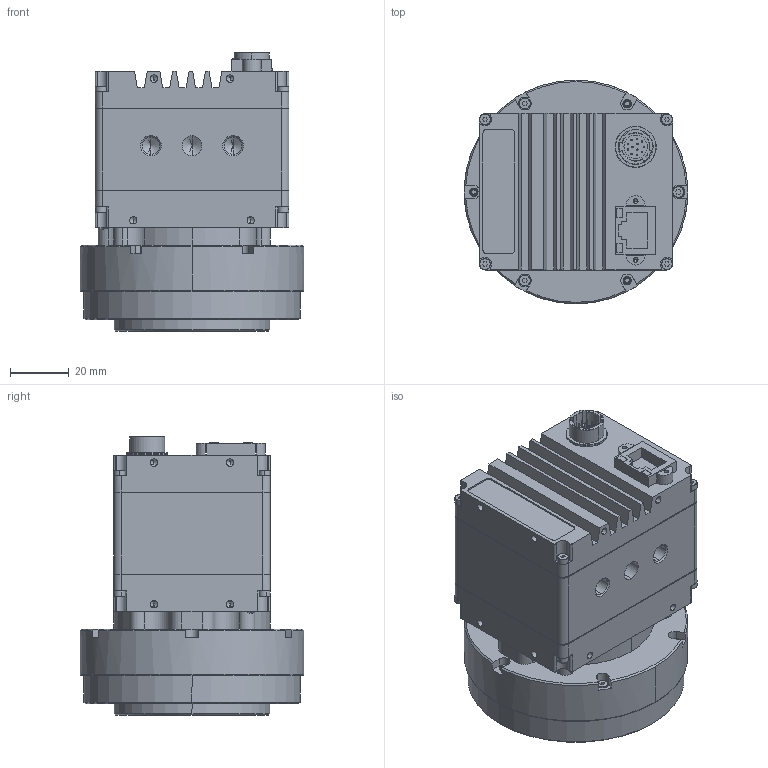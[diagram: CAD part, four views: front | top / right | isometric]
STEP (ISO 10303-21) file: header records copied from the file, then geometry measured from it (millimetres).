
FILE_DESCRIPTION (( 'STEP AP214' ), '1' );
FILE_NAME ('GT4905 PA M42.STEP', '2016-01-23T00:55:33', ( '' ), ( '' ), 'SwSTEP 2.0', 'SolidWorks 2015', '' );
FILE_SCHEMA (( 'AUTOMOTIVE_DESIGN' ));
Length unit declared in the file: millimetre
Products named in the file (4): GTLF BODY ASSY - defeatured_GT4905; GTLF PA FRONT ASSY - defeatured; GT4905 PA M42; PA M42 FRONT - defeatured
Assembly tree (3 placements, depth 2):
  GT4905 PA M42
    GTLF BODY ASSY - defeatured_GT4905
    GTLF PA FRONT ASSY - defeatured
    PA M42 FRONT - defeatured
Bounding box: 76.2 x 76.2 x 94.94 mm (x, y, z)
Volume: 213348.6 mm3; surface area: 60075.2 mm2
Topology: 3 solids, 11 shells, 1054 faces, 2635 edges, 1609 vertices
Faces by surface type: plane 376, cylinder 373, cone 195, bspline 63, sphere 26, torus 21
Entity records: 52816 total; most frequent: CARTESIAN_POINT 23496, DIRECTION 5231, ORIENTED_EDGE 4990, EDGE_CURVE 2495, AXIS2_PLACEMENT_3D 1963, VERTEX_POINT 1585, VECTOR 1305, LINE 1305
